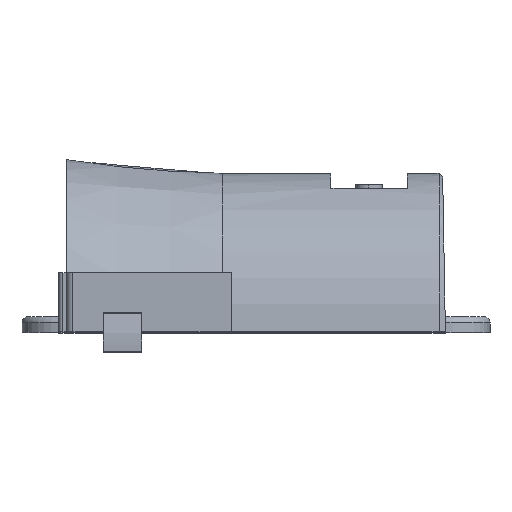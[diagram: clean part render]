
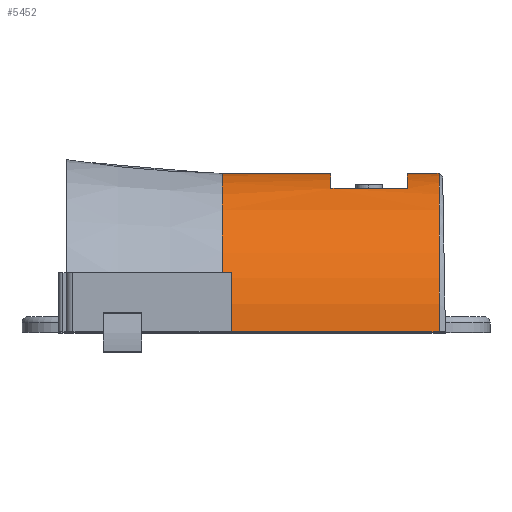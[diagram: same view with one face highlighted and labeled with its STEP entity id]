
A CAD part, top view. The second image highlights one B-rep face of the part: STEP entity #5452.
In plain terms, the highlighted cylindrical face has radius 12.5 mm (diameter 25 mm), a partial arc.
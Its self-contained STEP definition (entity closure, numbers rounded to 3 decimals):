
#52=CYLINDRICAL_SURFACE('',#5841,12.5);
#73=FACE_BOUND('',#708,.T.);
#227=CIRCLE('',#5716,12.5);
#228=CIRCLE('',#5769,12.5);
#229=CIRCLE('',#5771,12.5);
#252=CIRCLE('',#5842,12.5);
#421=FACE_OUTER_BOUND('',#707,.T.);
#707=EDGE_LOOP('',(#4006,#4007,#4008,#4009));
#708=EDGE_LOOP('',(#4010,#4011,#4012,#4013));
#880=LINE('',#7276,#1470);
#1034=LINE('',#7968,#1624);
#1036=LINE('',#7972,#1626);
#1100=LINE('',#8152,#1690);
#1470=VECTOR('',#6054,17.07);
#1624=VECTOR('',#6308,10.);
#1626=VECTOR('',#6310,10.);
#1690=VECTOR('',#6466,17.07);
#2062=VERTEX_POINT('',#7262);
#2063=VERTEX_POINT('',#7264);
#2067=VERTEX_POINT('',#7274);
#2198=VERTEX_POINT('',#7966);
#2199=VERTEX_POINT('',#7967);
#2200=VERTEX_POINT('',#7969);
#2201=VERTEX_POINT('',#7971);
#2262=VERTEX_POINT('',#8151);
#2568=EDGE_CURVE('',#2062,#2063,#227,.T.);
#2574=EDGE_CURVE('',#2062,#2067,#880,.T.);
#2770=EDGE_CURVE('',#2198,#2199,#1034,.T.);
#2772=EDGE_CURVE('',#2201,#2200,#1036,.T.);
#2774=EDGE_CURVE('',#2199,#2201,#228,.T.);
#2775=EDGE_CURVE('',#2200,#2198,#229,.T.);
#2859=EDGE_CURVE('',#2262,#2063,#1100,.T.);
#2914=EDGE_CURVE('',#2262,#2067,#252,.T.);
#4006=ORIENTED_EDGE('',*,*,#2574,.T.);
#4007=ORIENTED_EDGE('',*,*,#2914,.F.);
#4008=ORIENTED_EDGE('',*,*,#2859,.T.);
#4009=ORIENTED_EDGE('',*,*,#2568,.F.);
#4010=ORIENTED_EDGE('',*,*,#2775,.T.);
#4011=ORIENTED_EDGE('',*,*,#2770,.T.);
#4012=ORIENTED_EDGE('',*,*,#2774,.T.);
#4013=ORIENTED_EDGE('',*,*,#2772,.T.);
#5452=ADVANCED_FACE('',(#421,#73),#52,.T.);
#5716=AXIS2_PLACEMENT_3D('',#7265,#6045,#6046);
#5769=AXIS2_PLACEMENT_3D('',#7975,#6314,#6315);
#5771=AXIS2_PLACEMENT_3D('',#7977,#6318,#6319);
#5841=AXIS2_PLACEMENT_3D('',#8328,#6568,#6569);
#5842=AXIS2_PLACEMENT_3D('',#8329,#6570,#6571);
#6045=DIRECTION('center_axis',(1.,0.,0.));
#6046=DIRECTION('ref_axis',(0.,-1.,0.));
#6054=DIRECTION('',(-1.,0.,0.));
#6308=DIRECTION('',(1.,0.,0.));
#6310=DIRECTION('',(-1.,0.,0.));
#6314=DIRECTION('center_axis',(1.,0.,0.));
#6315=DIRECTION('ref_axis',(0.,-1.,0.));
#6318=DIRECTION('center_axis',(-1.,0.,0.));
#6319=DIRECTION('ref_axis',(0.,-1.,0.));
#6466=DIRECTION('',(1.,0.,0.));
#6568=DIRECTION('center_axis',(-1.,0.,0.));
#6569=DIRECTION('ref_axis',(0.,-1.,0.));
#6570=DIRECTION('center_axis',(-1.,0.,0.));
#6571=DIRECTION('ref_axis',(0.,-1.,0.));
#7262=CARTESIAN_POINT('',(28.5,0.,-12.5));
#7264=CARTESIAN_POINT('',(28.5,0.,12.5));
#7265=CARTESIAN_POINT('Origin',(28.5,0.,0.));
#7274=CARTESIAN_POINT('',(11.43,0.,-12.5));
#7276=CARTESIAN_POINT('',(28.5,0.,-12.5));
#7966=CARTESIAN_POINT('',(20.,11.3,-5.344));
#7967=CARTESIAN_POINT('',(26.,11.3,-5.344));
#7968=CARTESIAN_POINT('',(19.215,11.3,-5.344));
#7969=CARTESIAN_POINT('',(20.,11.3,5.344));
#7971=CARTESIAN_POINT('',(26.,11.3,5.344));
#7972=CARTESIAN_POINT('',(19.215,11.3,5.344));
#7975=CARTESIAN_POINT('Origin',(26.,0.,0.));
#7977=CARTESIAN_POINT('Origin',(20.,0.,0.));
#8151=CARTESIAN_POINT('',(11.43,0.,12.5));
#8152=CARTESIAN_POINT('',(11.43,0.,12.5));
#8328=CARTESIAN_POINT('Origin',(19.215,0.,0.));
#8329=CARTESIAN_POINT('Origin',(11.43,0.,0.));
